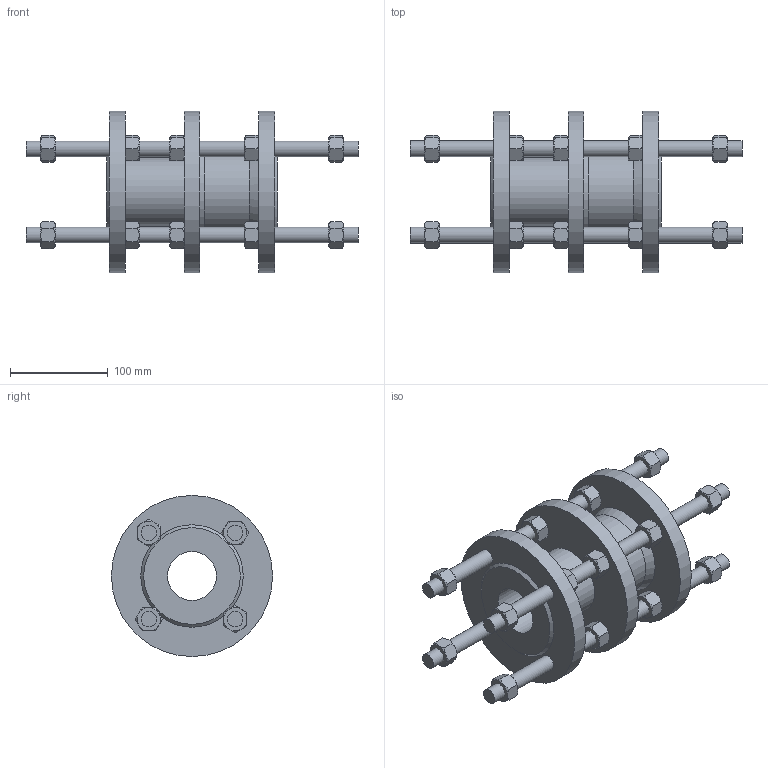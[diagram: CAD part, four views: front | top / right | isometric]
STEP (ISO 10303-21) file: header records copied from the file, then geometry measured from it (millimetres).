
FILE_DESCRIPTION (( 'STEP AP203' ), '1' );
FILE_NAME ('873005000741000.STEP', '2021-11-05T07:57:22', ( '' ), ( '' ), 'SwSTEP 2.0', 'SolidWorks 2020', '' );
FILE_SCHEMA (( 'CONFIG_CONTROL_DESIGN' ));
Length unit declared in the file: millimetre
Products named in the file (1): 873005000741000
Bounding box: 340 x 165 x 165 mm (x, y, z)
Volume: 1660500.9 mm3; surface area: 293048.2 mm2
Topology: 21 solids, 21 shells, 463 faces, 991 edges, 585 vertices
Faces by surface type: cone 243, plane 177, cylinder 43
Full cylindrical faces by diameter (mm): 14 x20, 16 x16, 50 x1, 70 x1, 85 x1, 101 x1, 165 x3
Entity records: 14457 total; most frequent: CARTESIAN_POINT 5326, ORIENTED_EDGE 1862, DIRECTION 1710, EDGE_CURVE 931, AXIS2_PLACEMENT_3D 795, EDGE_LOOP 582, VERTEX_POINT 571, FACE_OUTER_BOUND 506
